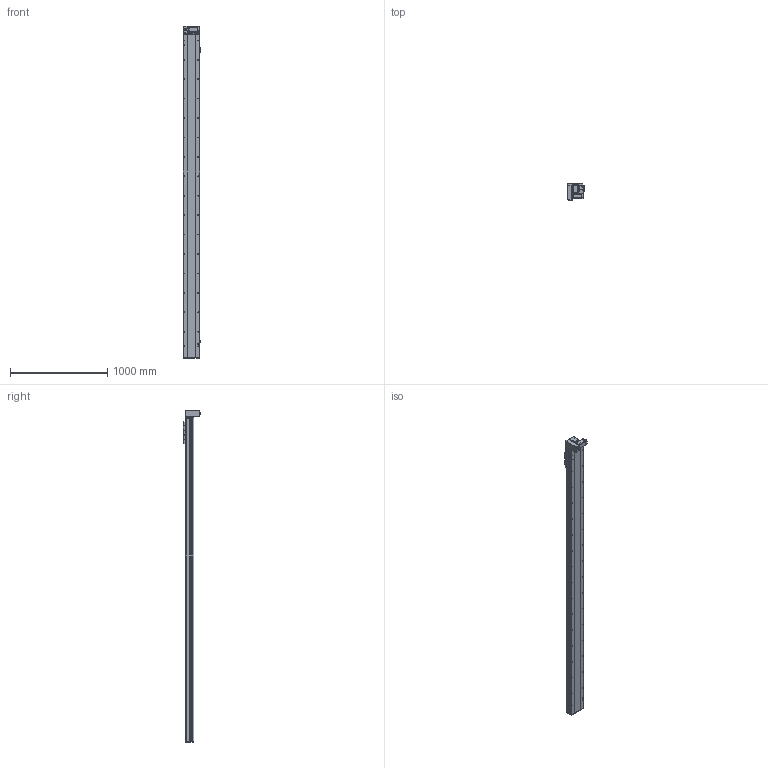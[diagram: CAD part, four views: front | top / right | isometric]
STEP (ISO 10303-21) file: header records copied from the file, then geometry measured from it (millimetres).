
FILE_DESCRIPTION (( 'STEP AP214' ), '1' );
FILE_NAME ('TPE17-L40-3000-LD-T40-C4.STEP', '2023-04-12T02:02:13', ( '' ), ( '' ), 'SwSTEP 2.0', 'SolidWorks 2020', '' );
FILE_SCHEMA (( 'AUTOMOTIVE_DESIGN' ));
Length unit declared in the file: millimetre
Products named in the file (12): 葩璃 TPT14-L-009 萇儂啣^TPE17-L40-LD-T40-C4_400W; 葩璃 pm-t65-672^TPE17-L40-LD-T40-C4; 葩璃 詩湍110^TPE17-L40-LD-T40-C4; TPE17-L40-3000-LD-T40-C4; 葩璃 TPE17 賑雄殤^TPE17-L40-LD-T40-C4; hexagon head bolts-full thread gb_GB_FASTENER_BOLT_STBAB A M5X16-N; 葩璃 TPE17-L-001 菁釱MZ-170-01^TPE17-L40-LD-T40-C4; 葩璃 TPE17-L-007 々湍釱MZ-169x88^TPE17-L40-LD-T40-C4_TPE17; hex nuts, style 1-grades ab gb_GB_FASTENER_NUT_SNAB1 M3-N; 葩璃 TPE17-L-002 耜裔ZTMZ-135-04^TPE17-L40-LD-T40-C4; 葩璃 侂狟400W^TPE17-L40-LD-T40-C4; hexagon socket head cap screws gb_GB_FASTENER_SCREWS_HSHCS M3X6-N
Assembly tree (24 placements, depth 2):
  TPE17-L40-3000-LD-T40-C4
    葩璃 TPE17-L-001 菁釱MZ-170-01^TPE17-L40-LD-T40-C4
    葩璃 TPE17-L-002 耜裔ZTMZ-135-04^TPE17-L40-LD-T40-C4  x2
    葩璃 詩湍110^TPE17-L40-LD-T40-C4
    葩璃 TPE17-L-007 々湍釱MZ-169x88^TPE17-L40-LD-T40-C4_TPE17
    葩璃 TPT14-L-009 萇儂啣^TPE17-L40-LD-T40-C4_400W
    葩璃 TPE17 賑雄殤^TPE17-L40-LD-T40-C4
    葩璃 pm-t65-672^TPE17-L40-LD-T40-C4  x3
    葩璃 侂狟400W^TPE17-L40-LD-T40-C4
    hexagon socket head cap screws gb_GB_FASTENER_SCREWS_HSHCS M3X6-N  x6
    hex nuts, style 1-grades ab gb_GB_FASTENER_NUT_SNAB1 M3-N  x6
    hexagon head bolts-full thread gb_GB_FASTENER_BOLT_STBAB A M5X16-N
Bounding box: 183.7 x 175.15 x 3419 mm (x, y, z)
Volume: 29989494.2 mm3; surface area: 3726736.7 mm2
Topology: 35 solids, 35 shells, 1778 faces, 4527 edges, 2828 vertices
Faces by surface type: plane 981, cylinder 505, cone 246, bspline 34, torus 12
Entity records: 42371 total; most frequent: CARTESIAN_POINT 8160, DIRECTION 6792, ORIENTED_EDGE 6502, EDGE_CURVE 3251, AXIS2_PLACEMENT_3D 2333, LINE 2126, VECTOR 2126, VERTEX_POINT 2091
